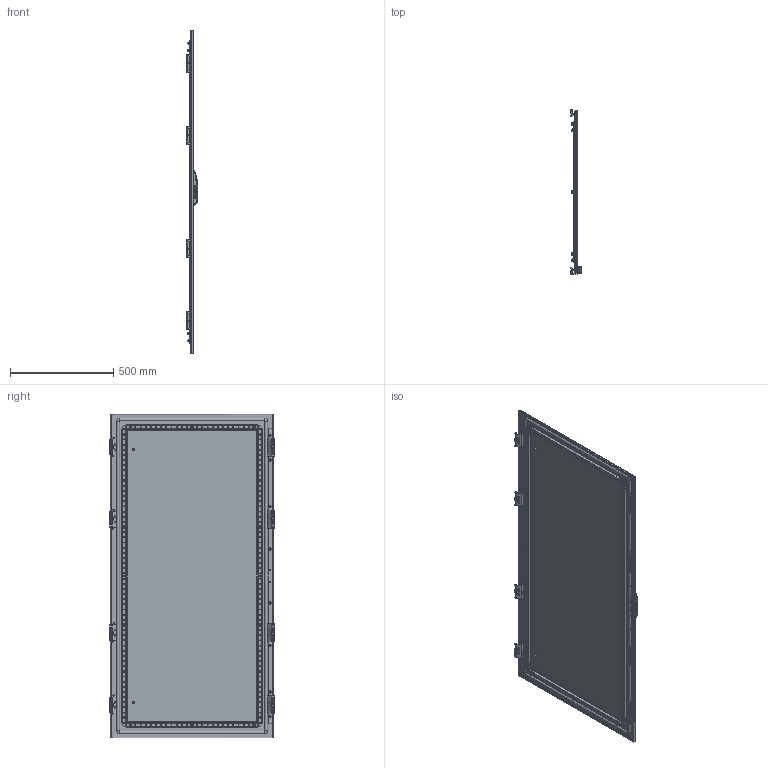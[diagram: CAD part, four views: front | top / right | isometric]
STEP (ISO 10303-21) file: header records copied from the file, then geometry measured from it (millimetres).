
FILE_DESCRIPTION(('STEP AP203'), '1');
FILE_NAME('3410 ﾄ粢 ﾑﾁ', '', ('UNSPECIFIED'), ('UNSPECIFIED'), 'C3D Converter', 'C3D Toolkit', '');
FILE_SCHEMA(('CONFIG_CONTROL_DESIGN'));
Length unit declared in the file: millimetre
Products named in the file (29): 3410.160.80 СБ; 3420; 3421; 3422.01; 3412; 3411; 2952; 3009.05; 3009.05.01; 3622.01; 3009.08; 3009.08.01
Assembly tree (115 placements, depth 4):
  3410.160.80 СБ
    3420
      3421
      3422.01  x4
      (unnamed)  x14
      (unnamed)  x8
      (unnamed)  x2
    3412  x2
    3411  x2
    (unnamed)  x4
    (unnamed)  x14
    (unnamed)  x22
    (unnamed)  x8
    2952
      (unnamed)
        (unnamed)
        (unnamed)
        (unnamed)
        (unnamed)
        (unnamed)
    (unnamed)  x2
    3009.05  x4
      3009.05.01
      (unnamed)
      (unnamed)
    3622.01  x4
    (unnamed)  x4
    3009.08  x4
      3009.08.01
      (unnamed)
      (unnamed)
Bounding box: 55 x 797.03 x 1571 mm (x, y, z)
Volume: 3033020.6 mm3; surface area: 3652960.1 mm2
Topology: 130 solids, 130 shells, 4313 faces, 10861 edges, 6982 vertices
Faces by surface type: plane 2555, cylinder 1033, cone 482, bspline 151, torus 81, sphere 11
Full cylindrical faces by diameter (mm): 0.5 x22, 4.134 x8, 4.3 x2, 4.5 x144, 4.917 x22, 5 x24, 5.2 x1, 5.8 x8, 6 x36, 6.1 x4, 6.6 x22, 6.75 x22, 7 x8, 7.3 x22, 7.5 x22, 8 x20, 8.3 x16, 8.5 x1, 9.2 x18, 10 x23, 10.5 x4, 11.5 x4, 12 x26, 13 x1, 15 x1, 20.7 x1, 21 x1
Entity records: 74391 total; most frequent: CARTESIAN_POINT 31174, ORIENTED_EDGE 6888, DIRECTION 6466, EDGE_CURVE 3444, AXIS2_PLACEMENT_3D 2311, VERTEX_POINT 2275, EDGE_LOOP 1901, LINE 1844
